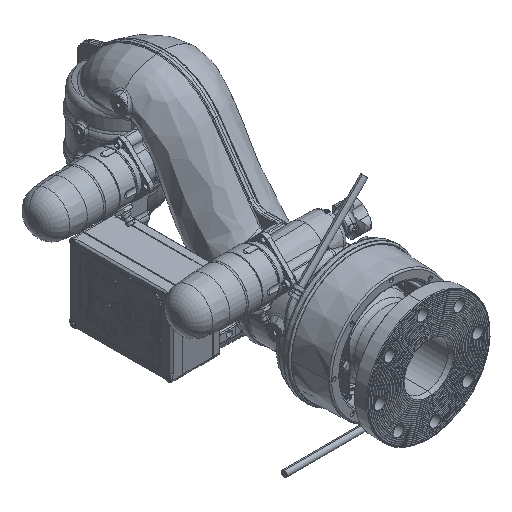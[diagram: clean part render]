
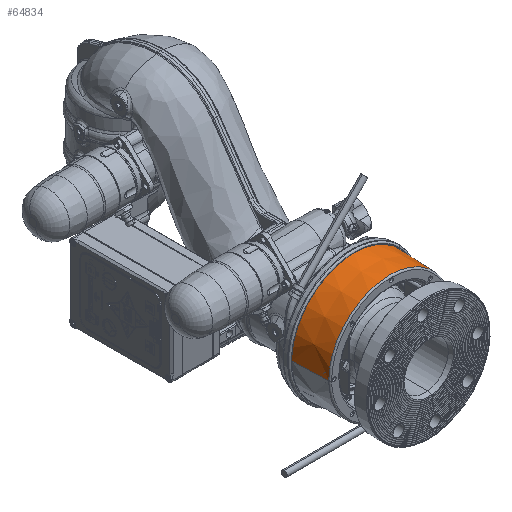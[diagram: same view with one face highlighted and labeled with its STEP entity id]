
A CAD part, isometric view. The second image highlights one B-rep face of the part: STEP entity #64834.
In plain terms, the highlighted conical face has half-angle 2 degrees and reference radius 98.641 mm.
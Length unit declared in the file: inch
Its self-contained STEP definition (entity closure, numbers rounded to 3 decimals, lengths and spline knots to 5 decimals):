
#6963 = LINE ( 'NONE', #14529, #82028 ) ;
#13425 = AXIS2_PLACEMENT_3D ( 'NONE', #166724, #82286, #67084 ) ;
#14529 = CARTESIAN_POINT ( 'NONE',  ( -3.88351, -7.22255, 0. ) ) ;
#27151 = CARTESIAN_POINT ( 'NONE',  ( 0., -7.13207, 0. ) ) ;
#34907 = DIRECTION ( 'NONE',  ( 0.035, 0.999, 0. ) ) ;
#40604 = ORIENTED_EDGE ( 'NONE', *, *, #159633, .F. ) ;
#44488 = VERTEX_POINT ( 'NONE', #65233 ) ;
#51632 = AXIS2_PLACEMENT_3D ( 'NONE', #92628, #76046, #125864 ) ;
#61578 = DIRECTION ( 'NONE',  ( -0.035, 0.999, 0. ) ) ;
#64834 = ADVANCED_FACE ( 'NONE', ( #91496 ), #205050, .T. ) ;
#65233 = CARTESIAN_POINT ( 'NONE',  ( 3.96627, -4.85255, 0. ) ) ;
#65311 = CARTESIAN_POINT ( 'NONE',  ( 3.88351, -7.22255, 0. ) ) ;
#67084 = DIRECTION ( 'NONE',  ( -1., 0., 0. ) ) ;
#72050 = CARTESIAN_POINT ( 'NONE',  ( -3.88667, -7.13207, 0. ) ) ;
#76046 = DIRECTION ( 'NONE',  ( 0., 1., 0. ) ) ;
#76708 = EDGE_CURVE ( 'NONE', #124241, #126239, #6963, .T. ) ;
#79271 = EDGE_LOOP ( 'NONE', ( #175970, #130820, #40604, #185707 ) ) ;
#82028 = VECTOR ( 'NONE', #61578, 39.37008 ) ;
#82286 = DIRECTION ( 'NONE',  ( 0., 1., 0. ) ) ;
#91496 = FACE_OUTER_BOUND ( 'NONE', #79271, .T. ) ;
#92599 = CARTESIAN_POINT ( 'NONE',  ( -3.96627, -4.85255, 0. ) ) ;
#92628 = CARTESIAN_POINT ( 'NONE',  ( 0., -4.85255, 0. ) ) ;
#124241 = VERTEX_POINT ( 'NONE', #72050 ) ;
#125864 = DIRECTION ( 'NONE',  ( -1., 0., 0. ) ) ;
#126239 = VERTEX_POINT ( 'NONE', #92599 ) ;
#130820 = ORIENTED_EDGE ( 'NONE', *, *, #210843, .T. ) ;
#135600 = AXIS2_PLACEMENT_3D ( 'NONE', #27151, #157144, #191138 ) ;
#149486 = LINE ( 'NONE', #65311, #159797 ) ;
#157144 = DIRECTION ( 'NONE',  ( 0., 1., 0. ) ) ;
#159633 = EDGE_CURVE ( 'NONE', #126239, #44488, #200380, .T. ) ;
#159797 = VECTOR ( 'NONE', #34907, 39.37008 ) ;
#161464 = VERTEX_POINT ( 'NONE', #183193 ) ;
#162496 = CIRCLE ( 'NONE', #135600, 3.88667 ) ;
#166724 = CARTESIAN_POINT ( 'NONE',  ( 0., -7.22255, 0. ) ) ;
#175970 = ORIENTED_EDGE ( 'NONE', *, *, #209882, .T. ) ;
#183193 = CARTESIAN_POINT ( 'NONE',  ( 3.88667, -7.13207, 0. ) ) ;
#185707 = ORIENTED_EDGE ( 'NONE', *, *, #76708, .F. ) ;
#191138 = DIRECTION ( 'NONE',  ( 1., 0., 0. ) ) ;
#200380 = CIRCLE ( 'NONE', #51632, 3.96627 ) ;
#205050 = CONICAL_SURFACE ( 'NONE', #13425, 3.88351, 0.035 ) ;
#209882 = EDGE_CURVE ( 'NONE', #124241, #161464, #162496, .T. ) ;
#210843 = EDGE_CURVE ( 'NONE', #161464, #44488, #149486, .T. ) ;
